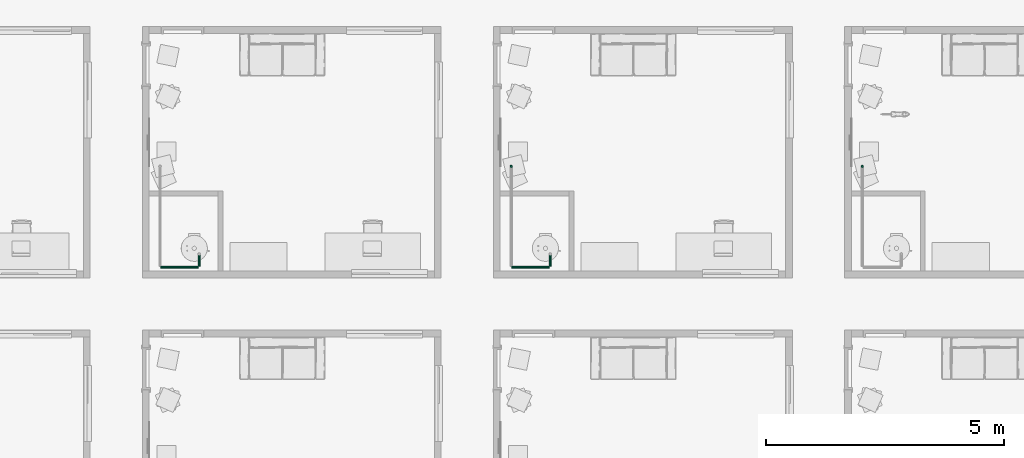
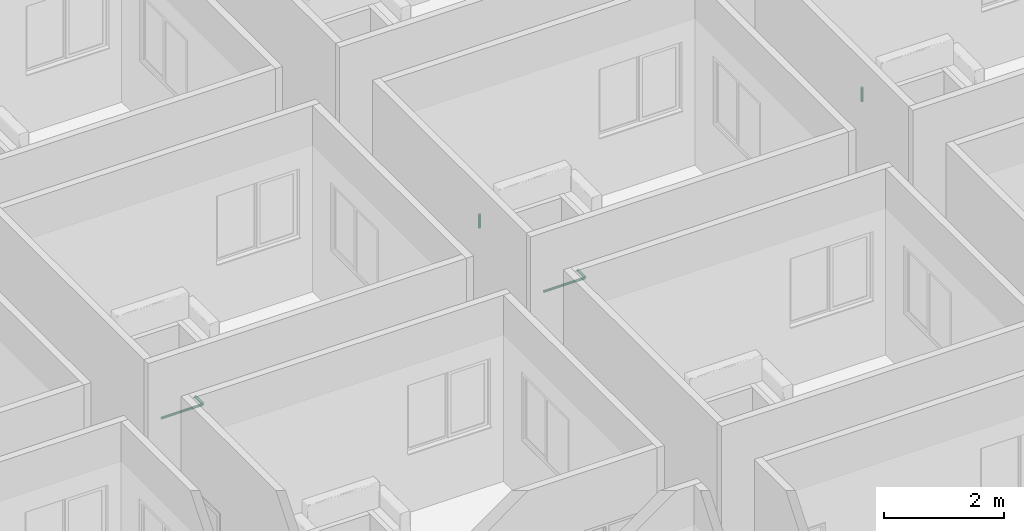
# One storey, part 47 of 71: 6 pipe segments.
"""IFC4 building model written with IfcOpenShell, lengths in centimetres."""

from ifc_helpers import new_model, entity, si_unit, converted_unit, derived_unit, direction, frame, origin, place, context, subcontext, project, spatial, arc, indexed_curve, outline, extrude, type_object, element, save


model = new_model("IFC4")

# Units and contexts
model_context = context("Model", 3, precision=0.001, world=origin(), true_north=direction((6.123233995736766e-17, 1.0)))
body_context = subcontext(model_context, "Body", "Model", "MODEL_VIEW")
ifc_project = project(units=[si_unit("LENGTHUNIT", "METRE", prefix="CENTI"), si_unit("AREAUNIT", "SQUARE_METRE"), si_unit("VOLUMEUNIT", "CUBIC_METRE"), derived_unit("THERMALTRANSMITTANCEUNIT", [(si_unit("MASSUNIT", "GRAM", prefix="KILO"), 1), (si_unit("THERMODYNAMICTEMPERATUREUNIT", "KELVIN"), -1), (si_unit("TIMEUNIT", "SECOND"), -3)]), converted_unit("PLANEANGLEUNIT", "DEGREE", entity("IfcPlaneAngleMeasure", 0.017453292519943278), si_unit("PLANEANGLEUNIT", "RADIAN"), dimensions=[0, 0, 0, 0, 0, 0, 0]), derived_unit("MASSDENSITYUNIT", [(si_unit("MASSUNIT", "GRAM", prefix="KILO"), 1), (si_unit("LENGTHUNIT", "METRE"), -3)]), derived_unit("VAPORPERMEABILITYUNIT", [(si_unit("LENGTHUNIT", "METRE"), -1), (si_unit("TIMEUNIT", "SECOND"), 1)]), derived_unit("USERDEFINED", [(si_unit("MASSUNIT", "GRAM", prefix="KILO"), 1), (si_unit("TIMEUNIT", "SECOND"), -3), (si_unit("LENGTHUNIT", "METRE"), 3), (si_unit("ELECTRICCURRENTUNIT", "AMPERE"), -2)]), derived_unit("SPECIFICHEATCAPACITYUNIT", [(si_unit("THERMODYNAMICTEMPERATUREUNIT", "KELVIN"), -1), (si_unit("LENGTHUNIT", "METRE"), 2), (si_unit("TIMEUNIT", "SECOND"), -2)]), derived_unit("THERMALCONDUCTANCEUNIT", [(si_unit("MASSUNIT", "GRAM", prefix="KILO"), 1), (si_unit("THERMODYNAMICTEMPERATUREUNIT", "KELVIN"), -1), (si_unit("TIMEUNIT", "SECOND"), -3), (si_unit("LENGTHUNIT", "METRE"), 1)]), si_unit("PRESSUREUNIT", "PASCAL"), derived_unit("MODULUSOFELASTICITYUNIT", [(si_unit("MASSUNIT", "GRAM", prefix="KILO"), 1), (si_unit("LENGTHUNIT", "METRE"), -1), (si_unit("TIMEUNIT", "SECOND"), -2)]), derived_unit("THERMALEXPANSIONCOEFFICIENTUNIT", [(si_unit("THERMODYNAMICTEMPERATUREUNIT", "KELVIN"), -1)])], contexts=[model_context])

# Site, building, storey
site_placement = place(None, origin())
site = spatial("IfcSite", under=ifc_project, at=site_placement, Name="Default", CompositionType="ELEMENT")
building_placement = place(site_placement, origin())
building = spatial("IfcBuilding", under=site, at=building_placement, Name="IDS Escape Game Building", CompositionType="ELEMENT")
storey_placement = place(building_placement, frame((0.0, 0.0, 400.0)))
storey = spatial("IfcBuildingStorey", under=building, at=storey_placement, Name="01_First Floor", CompositionType="ELEMENT", Elevation=399.99999999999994)

# Pipe segments
pipe_segment_type = type_object("IfcPipeSegmentType", Name="Pipe Types:Piping Aluminum", PredefinedType="NOTDEFINED")
pipe_segment_1_placement = place(storey_placement, origin())
element("IfcPipeSegment", 1, at=pipe_segment_1_placement, inside=storey, type_object=pipe_segment_type, Name="Pipe Types:Piping Aluminum", ObjectType="Pipe Types:Piping Aluminum", PredefinedType="NOTDEFINED", context=body_context, shape_type="SweptSolid", body=[
    extrude(outline(indexed_curve([(2.412999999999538, -2.165734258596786e-13), (1.7062486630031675, 1.7062486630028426), (4.331468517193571e-13, 2.4130000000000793), (-1.706248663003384, 1.7062486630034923), (-2.4130000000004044, -2.165734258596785e-13), (-1.7062486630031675, -1.7062486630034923), (4.3314685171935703e-13, -2.412999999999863), (1.7062486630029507, -1.7062486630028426)], segments=[arc(1, 2, 3), arc(3, 4, 5), arc(5, 6, 7), arc(7, 8, 1)], self_intersect=False)), frame((1507.1467168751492, 1935.2648279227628, 242.0), z_axis=(1.0, 0.0, 0.0), x_axis=(0.0, 1.0, 0.0)), (0.0, 0.0, 1.0), 79.90328312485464),
])
pipe_segment_2_placement = place(storey_placement, origin())
element("IfcPipeSegment", 2, at=pipe_segment_2_placement, inside=storey, type_object=pipe_segment_type, Name="Pipe Types:Piping Aluminum", ObjectType="Pipe Types:Piping Aluminum", PredefinedType="NOTDEFINED", context=body_context, shape_type="SweptSolid", body=[
    extrude(outline(indexed_curve([(2.4129999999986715, 0.0), (1.7062486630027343, 1.706248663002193), (1.2994405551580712e-12, 2.412999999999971), (-1.7062486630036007, 1.7062486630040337), (-2.413000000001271, 0.0), (-1.7062486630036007, -1.7062486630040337), (1.2994405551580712e-12, -2.412999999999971), (1.7062486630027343, -1.706248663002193)], segments=[arc(1, 2, 3), arc(3, 4, 5), arc(5, 6, 7), arc(7, 8, 1)], self_intersect=False)), frame((1588.1500000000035, 1936.3648279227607, 242.0), z_axis=(0.0, 1.0, 0.0), x_axis=(-1.0, 0.0, 0.0)), (0.0, 0.0, 1.0), 25.435172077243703),
])
pipe_segment_3_placement = place(storey_placement, origin())
element("IfcPipeSegment", 3, at=pipe_segment_3_placement, inside=storey, type_object=pipe_segment_type, Name="Pipe Types:Piping Aluminum", ObjectType="Pipe Types:Piping Aluminum", PredefinedType="NOTDEFINED", context=body_context, shape_type="SweptSolid", body=[
    extrude(outline(indexed_curve([(2.412999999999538, -2.165734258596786e-13), (1.7062486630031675, 1.7062486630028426), (4.331468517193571e-13, 2.4130000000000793), (-1.706248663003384, 1.7062486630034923), (-2.4130000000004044, -2.165734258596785e-13), (-1.7062486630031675, -1.7062486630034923), (4.3314685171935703e-13, -2.412999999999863), (1.7062486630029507, -1.7062486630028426)], segments=[arc(1, 2, 3), arc(3, 4, 5), arc(5, 6, 7), arc(7, 8, 1)], self_intersect=False)), frame((2245.1467168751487, 1935.2648279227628, 242.0), z_axis=(1.0, 0.0, 0.0), x_axis=(0.0, 1.0, 0.0)), (0.0, 0.0, 1.0), 79.90328312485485),
])
pipe_segment_4_placement = place(storey_placement, origin())
element("IfcPipeSegment", 4, at=pipe_segment_4_placement, inside=storey, type_object=pipe_segment_type, Name="Pipe Types:Piping Aluminum", ObjectType="Pipe Types:Piping Aluminum", PredefinedType="NOTDEFINED", context=body_context, shape_type="SweptSolid", body=[
    extrude(outline(indexed_curve([(2.4129999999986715, 0.0), (1.7062486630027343, 1.7062486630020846), (1.7325874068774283e-12, 2.412999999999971), (-1.7062486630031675, 1.7062486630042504), (-2.413000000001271, 0.0), (-1.7062486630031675, -1.7062486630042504), (1.7325874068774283e-12, -2.412999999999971), (1.7062486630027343, -1.7062486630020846)], segments=[arc(1, 2, 3), arc(3, 4, 5), arc(5, 6, 7), arc(7, 8, 1)], self_intersect=False)), frame((2326.1500000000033, 1936.3648279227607, 242.0), z_axis=(0.0, 1.0, 0.0), x_axis=(-1.0, 0.0, 0.0)), (0.0, 0.0, 1.0), 25.435172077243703),
])
pipe_segment_5_placement = place(storey_placement, origin())
element("IfcPipeSegment", 5, at=pipe_segment_5_placement, inside=storey, type_object=pipe_segment_type, Name="Pipe Types:Piping Aluminum", ObjectType="Pipe Types:Piping Aluminum", PredefinedType="NOTDEFINED", context=body_context, shape_type="SweptSolid", body=[
    extrude(outline(indexed_curve([(2.412999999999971, -4.331468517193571e-13), (1.7062486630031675, 1.7062486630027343), (0.0, 2.412999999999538), (-1.7062486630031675, 1.7062486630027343), (-2.412999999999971, -4.331468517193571e-13), (-1.7062486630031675, -1.7062486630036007), (0.0, -2.4130000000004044), (1.7062486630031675, -1.7062486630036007)], segments=[arc(1, 2, 3), arc(3, 4, 5), arc(5, 6, 7), arc(7, 8, 1)], self_intersect=False)), frame((2244.046716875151, 2147.26482792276, 244.09999999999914), z_axis=(0.0, 0.0, 1.0), x_axis=(-1.0, 0.0, 0.0)), (0.0, 0.0, 1.0), 27.900000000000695),
])
pipe_segment_6_placement = place(storey_placement, origin())
element("IfcPipeSegment", 6, at=pipe_segment_6_placement, inside=storey, type_object=pipe_segment_type, Name="Pipe Types:Piping Aluminum", ObjectType="Pipe Types:Piping Aluminum", PredefinedType="NOTDEFINED", context=body_context, shape_type="SweptSolid", body=[
    extrude(outline(indexed_curve([(2.412999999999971, -4.331468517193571e-13), (1.7062486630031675, 1.7062486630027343), (0.0, 2.412999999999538), (-1.7062486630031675, 1.7062486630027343), (-2.412999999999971, -4.331468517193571e-13), (-1.7062486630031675, -1.7062486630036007), (0.0, -2.4130000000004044), (1.7062486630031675, -1.7062486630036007)], segments=[arc(1, 2, 3), arc(3, 4, 5), arc(5, 6, 7), arc(7, 8, 1)], self_intersect=False)), frame((2982.0467168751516, 2147.26482792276, 244.09999999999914), z_axis=(0.0, 0.0, 1.0), x_axis=(-1.0, 0.0, 0.0)), (0.0, 0.0, 1.0), 27.900000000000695),
])

save(model, "model.ifc")
